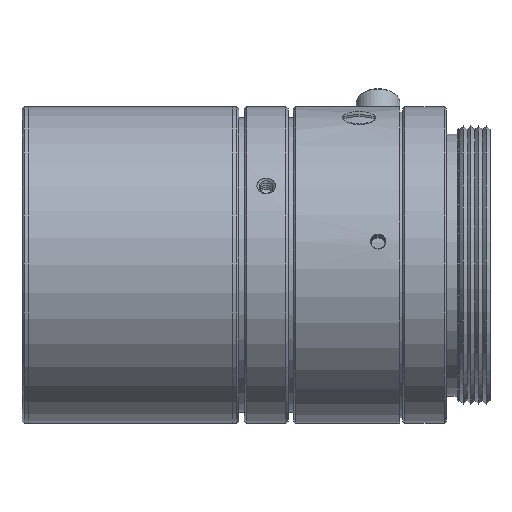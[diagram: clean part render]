
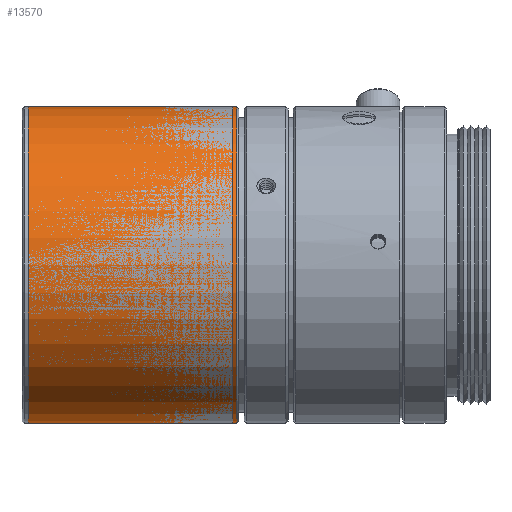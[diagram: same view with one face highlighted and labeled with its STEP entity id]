
A CAD part, front view. The second image highlights one B-rep face of the part: STEP entity #13570.
In plain terms, the highlighted cylindrical face has radius 14.5 mm (diameter 29 mm), a full revolution.
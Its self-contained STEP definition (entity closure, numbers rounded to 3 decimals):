
#1742=ORIENTED_EDGE('',*,*,#4815,.T.);
#1743=ORIENTED_EDGE('',*,*,#4814,.F.);
#4814=EDGE_CURVE('',#6352,#6352,#7710,.T.);
#4815=EDGE_CURVE('',#6353,#6353,#7711,.T.);
#6352=VERTEX_POINT('',#22658);
#6353=VERTEX_POINT('',#22661);
#7710=CIRCLE('',#15158,14.5);
#7711=CIRCLE('',#15160,14.5);
#8890=EDGE_LOOP('',(#1742));
#8891=EDGE_LOOP('',(#1743));
#11138=FACE_BOUND('',#8890,.T.);
#11139=FACE_BOUND('',#8891,.T.);
#13379=CYLINDRICAL_SURFACE('',#15159,14.5);
#13570=ADVANCED_FACE('',(#11138,#11139),#13379,.T.);
#15158=AXIS2_PLACEMENT_3D('',#22657,#17560,#17561);
#15159=AXIS2_PLACEMENT_3D('',#22659,#17562,#17563);
#15160=AXIS2_PLACEMENT_3D('',#22660,#17564,#17565);
#17560=DIRECTION('',(1.,0.,0.));
#17561=DIRECTION('',(0.,1.,0.));
#17562=DIRECTION('',(-1.,0.,0.));
#17563=DIRECTION('',(0.,1.,0.));
#17564=DIRECTION('',(1.,0.,0.));
#17565=DIRECTION('',(0.,1.,0.));
#22657=CARTESIAN_POINT('',(-36.7,0.,0.));
#22658=CARTESIAN_POINT('',(-36.7,14.5,0.));
#22659=CARTESIAN_POINT('',(-46.25,0.,0.));
#22660=CARTESIAN_POINT('',(-55.8,0.,0.));
#22661=CARTESIAN_POINT('',(-55.8,14.5,0.));
